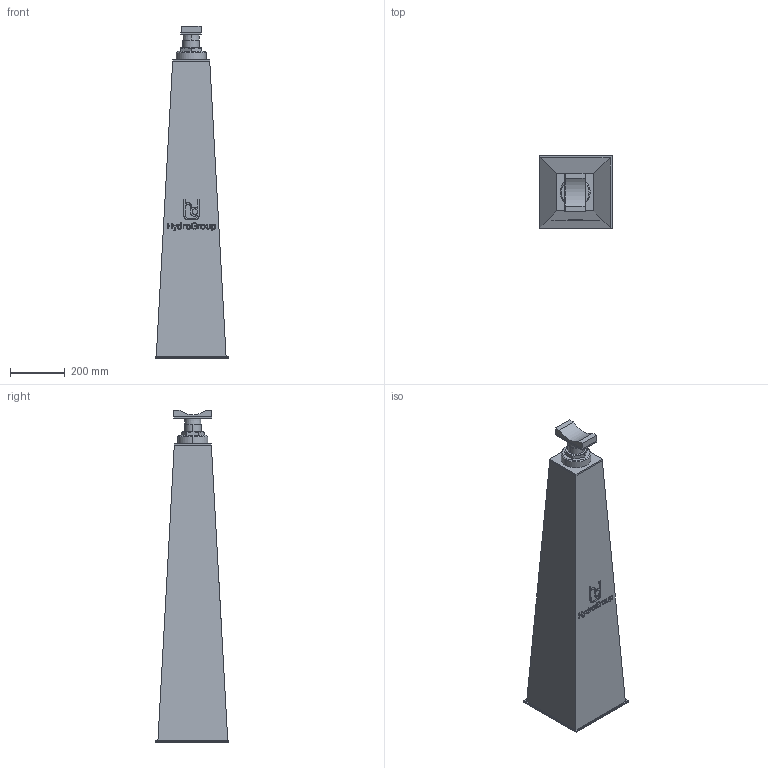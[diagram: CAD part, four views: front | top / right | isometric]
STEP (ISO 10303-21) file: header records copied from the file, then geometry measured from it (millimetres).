
FILE_DESCRIPTION(('STEP AP214'),'1');
FILE_NAME('RSRFE-IV_DN150.stp','2018-06-29T08:24:04',(' '),(' '),'Spatial InterOp 3D',' ',' ');
FILE_SCHEMA(('automotive_design'));
Length unit declared in the file: millimetre
Products named in the file (6): 1; 2; 3; 4; 5; 6
Bounding box: 270 x 270 x 1217.3 mm (x, y, z)
Volume: 44726412.1 mm3; surface area: 1248565.2 mm2
Topology: 6 solids, 6 shells, 222 faces, 548 edges, 357 vertices
Faces by surface type: plane 144, cylinder 30, extrusion 24, cone 20, torus 4
Entity records: 8944 total; most frequent: CARTESIAN_POINT 1807, ORIENTED_EDGE 1096, DIRECTION 1011, EDGE_CURVE 548, VECTOR 421, LINE 397, VERTEX_POINT 357, AXIS2_PLACEMENT_3D 295
